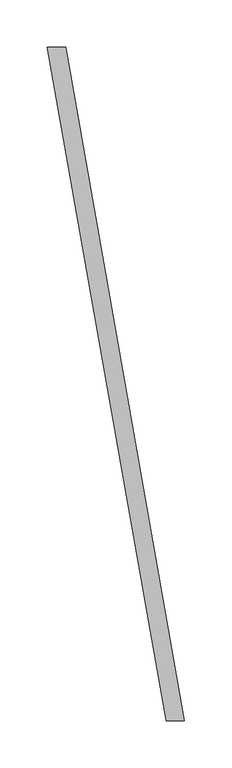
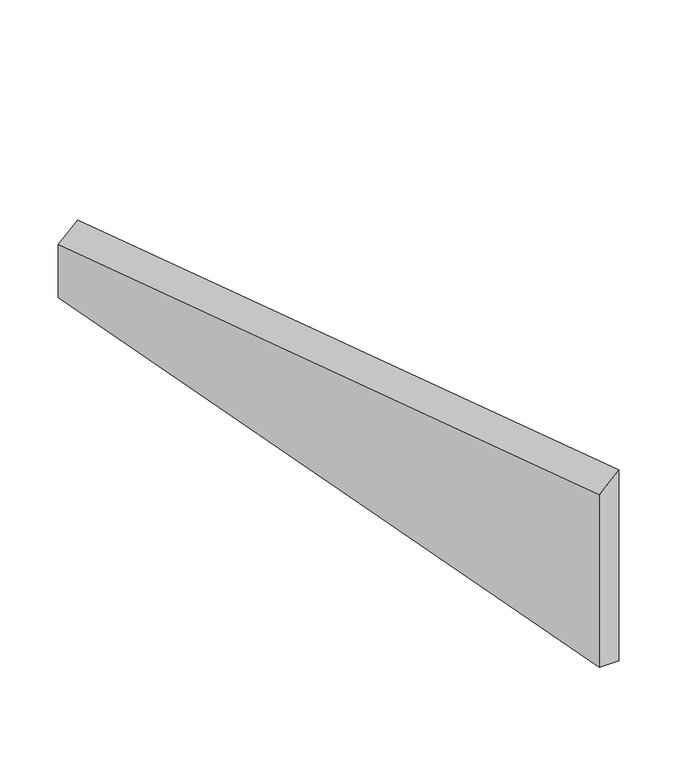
"""IFC4 building model written with IfcOpenShell, lengths in millimetres: proxy geometry, GRADIENT^TABLE 7_PYRAMID BASES-END BASE LEFT WING."""

from ifc_helpers import new_model, si_unit, origin, place, context, project, spatial, faceted_brep, source, transform, mapped, element, save


def generic_models_51c01d00(model_context):
    return source(origin(), model_context, "Body", "Brep", [
        faceted_brep([(769.6523744, 0.0, -657.225), (788.9962513, 0.0, -657.225), (914.4, -711.2, -657.225), (895.056123, -711.2, -657.225), (769.6523744, 0.0, -601.9476256), (895.056123, -711.2, -476.543877), (788.9962513, 0.0, -582.6037487), (914.4, -711.2, -457.2)], [[[0, 1, 2, 3]], [[4, 0, 3, 5]], [[1, 0, 4, 6]], [[1, 6, 7, 2]], [[3, 2, 7, 5]], [[7, 6, 4, 5]]]),
    ])


if __name__ == "__main__":
    model = new_model("IFC4")
    model_context = context("Model", 3, world=origin())
    ifc_project = project(units=[si_unit("LENGTHUNIT", "METRE", prefix="MILLI")], contexts=[model_context])
    site = spatial("IfcSite", under=ifc_project)
    building = spatial("IfcBuilding", under=site)
    placement = place(None, origin())
    generic_models_shape = generic_models_51c01d00(model_context)
    element("IfcBuildingElementProxy", 1, Name="GRADIENT^TABLE 7_PYRAMID BASES-END BASE LEFT WING", ObjectType="GRADIENT^TABLE 7_PYRAMID BASES-END BASE LEFT WING", at=placement, inside=building, context=model_context, shape_type="MappedRepresentation", body=[
        mapped(generic_models_shape, transform((0.0, 0.0, 0.0), x_axis=(1.0, 0.0, 0.0), y_axis=(0.0, 1.0, 0.0), z_axis=(0.0, 0.0, 1.0))),
    ])
    save(model, "model.ifc")
